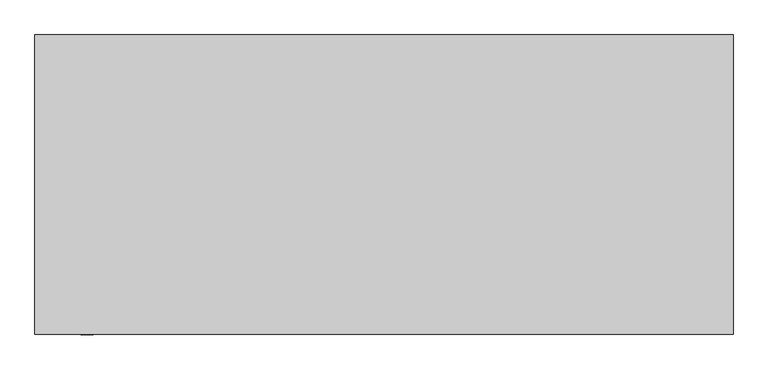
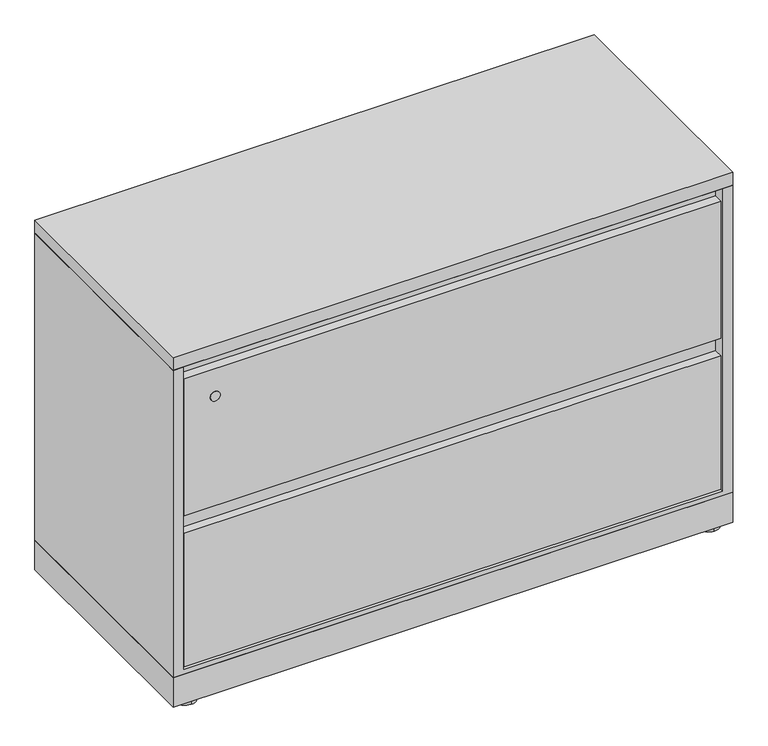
"""IFC4 building model written with IfcOpenShell, lengths in millimetres: furniture geometry, Steelcase - Universal Storage - Lateral File - 2 High - Flush Steel : 18D x 42W."""

from ifc_helpers import new_model, si_unit, point, frame, frame_2d, origin, origin_with_axes, place, context, project, spatial, polyline, circle_curve, trimmed, segment, composite_curve, outline, extrude, faceted_brep, source, transform, mapped, element, save


def furniture_76ad1fc9(model_context):
    return source(origin(), model_context, "Body", "SolidModel", [
        extrude(outline(polyline([(1066.8, 457.2), (1066.8, 0.0), (0.0, 0.0), (0.0, 457.2), (1066.8, 457.2)])), frame((0.0, 0.0, 685.7999516), z_axis=(0.0, 0.0, 1.0), x_axis=(1.0, 0.0, 0.0)), (0.0, 0.0, 1.0), 25.4),
        extrude(outline(polyline([(1066.8, 457.2), (1066.8, 0.0), (0.0, 0.0), (0.0, 457.2), (1066.8, 457.2)])), frame((0.0, 0.0, 6.3500002), z_axis=(0.0, 0.0, 1.0), x_axis=(1.0, 0.0, 0.0)), (0.0, 0.0, 1.0), 59.6899998),
        extrude(outline(composite_curve([segment(trimmed(circle_curve(frame_2d((1032.1290058, 434.8633666)), 20.32), [point((1032.1290058, 414.5433666))], [point((1032.1290058, 455.1833666))], False, "CARTESIAN"), True, "CONTINUOUS"), segment(trimmed(circle_curve(frame_2d((1032.1290058, 434.8633666)), 20.32), [point((1032.1290058, 455.1833666))], [point((1032.1290058, 414.5433666))], False, "CARTESIAN"), True, "CONTINUOUS")], self_intersect=False)), origin_with_axes(), (0.0, 0.0, 1.0), 6.3500002),
        extrude(outline(composite_curve([segment(trimmed(circle_curve(frame_2d((1032.1290058, 20.7491455)), 20.32), [point((1032.1290058, 0.4291455))], [point((1032.1290058, 41.0691455))], False, "CARTESIAN"), True, "CONTINUOUS"), segment(trimmed(circle_curve(frame_2d((1032.1290058, 20.7491455)), 20.32), [point((1032.1290058, 41.0691455))], [point((1032.1290058, 0.4291455))], False, "CARTESIAN"), True, "CONTINUOUS")], self_intersect=False)), origin_with_axes(), (0.0, 0.0, 1.0), 6.3500002),
        extrude(outline(composite_curve([segment(trimmed(circle_curve(frame_2d((34.29, 434.8633666)), 20.32), [point((34.29, 455.1833666))], [point((34.29, 414.5433666))], False, "CARTESIAN"), True, "CONTINUOUS"), segment(trimmed(circle_curve(frame_2d((34.29, 434.8633666)), 20.32), [point((34.29, 414.5433666))], [point((34.29, 455.1833666))], False, "CARTESIAN"), True, "CONTINUOUS")], self_intersect=False)), origin_with_axes(), (0.0, 0.0, 1.0), 6.3500002),
        extrude(outline(composite_curve([segment(trimmed(circle_curve(frame_2d((34.29, 20.7491455)), 20.32), [point((34.29, 41.0691455))], [point((34.29, 0.4291455))], False, "CARTESIAN"), True, "CONTINUOUS"), segment(trimmed(circle_curve(frame_2d((34.29, 20.7491455)), 20.32), [point((34.29, 0.4291455))], [point((34.29, 41.0691455))], False, "CARTESIAN"), True, "CONTINUOUS")], self_intersect=False)), origin_with_axes(), (0.0, 0.0, 1.0), 6.3500002),
        extrude(outline(polyline([(437.7944128, 396.7988176), (437.7944128, 410.7687861), (440.969412, 410.7687861), (440.969412, 371.5257963), (26.822418, 371.5257963), (26.822418, 396.7988176), (437.7944128, 396.7988176)])), frame((22.0472, 0.0, 0.0), z_axis=(1.0, 0.0, 0.0), x_axis=(0.0, 1.0, 0.0)), (0.0, 0.0, 1.0), 1022.7056),
        extrude(outline(polyline([(1.45e-05, 685.7999516), (457.2, 685.7999516), (456.4379879, 685.0379394), (0.7620266, 685.0379394), (1.45e-05, 685.7999516)])), frame((0.0, 0.0, 0.0), z_axis=(1.0, 0.0, 0.0), x_axis=(0.0, 1.0, 0.0)), (0.0, 0.0, 1.0), 1066.8),
        faceted_brep([(1066.8, 0.0, 66.04), (1066.8, 457.2, 66.04), (1066.8, 457.2, 685.0379394), (1066.8, 0.0, 685.0379394), (0.0, 0.0, 685.0379394), (0.0, 457.2, 685.0379394), (0.0, 457.2, 66.04), (0.0, 0.0, 66.04), (1047.75, 0.0, 685.0379394), (1047.75, 0.0, 75.1586), (19.05, 0.0, 75.1586), (19.05, 0.0, 685.0379394), (19.05, 454.0249999, 685.0379394), (1047.75, 454.0249999, 685.0379394), (19.05, 454.0249999, 75.1586), (1047.75, 454.0249999, 75.1586)], [[[0, 1, 2, 3]], [[4, 5, 6, 7]], [[0, 3, 8, 9, 10, 11, 4, 7]], [[2, 1, 6, 5]], [[3, 2, 5, 4, 11, 12, 13, 8]], [[12, 14, 15, 13]], [[14, 12, 11, 10]], [[13, 15, 9, 8]], [[1, 0, 7, 6]], [[10, 9, 15, 14]]]),
        extrude(outline(polyline([(23.6541043, 79.2988025), (1.5178885, 79.2988025), (1.5178885, 348.1577823), (19.3741023, 348.1577823), (19.3741023, 378.7648167), (23.6541043, 378.7648167), (23.6541043, 79.2988025)])), frame((22.0472, 0.0, 0.0), z_axis=(1.0, 0.0, 0.0), x_axis=(0.0, 1.0, 0.0)), (0.0, 0.0, 1.0), 1022.7056),
        extrude(outline(polyline([(23.6541043, 384.1241916), (1.5178885, 384.1241916), (1.5178885, 660.4), (19.3741023, 660.4), (19.3741023, 684.2759167), (23.6541043, 684.2759167), (23.6541043, 384.1241916)])), frame((22.0472, 0.0, 0.0), z_axis=(1.0, 0.0, 0.0), x_axis=(0.0, 1.0, 0.0)), (0.0, 0.0, 1.0), 1022.7056),
        extrude(outline(composite_curve([segment(trimmed(circle_curve(frame_2d((606.1930374, 79.5245518)), 9.2851891), [point((606.1930374, 70.2393627))], [point((606.1930374, 88.8097409))], False, "CARTESIAN"), True, "CONTINUOUS"), segment(trimmed(circle_curve(frame_2d((606.1930374, 79.5245518)), 9.2851891), [point((606.1930374, 88.8097409))], [point((606.1930374, 70.2393627))], False, "CARTESIAN"), True, "CONTINUOUS")], self_intersect=False)), frame((0.0, -1.044398, 0.0), z_axis=(0.0, 1.0, 0.0), x_axis=(0.0, 0.0, 1.0)), (0.0, 0.0, 1.0), 1.044398),
    ])


if __name__ == "__main__":
    model = new_model("IFC4")
    model_context = context("Model", 3, world=origin())
    ifc_project = project(units=[si_unit("LENGTHUNIT", "METRE", prefix="MILLI")], contexts=[model_context])
    site = spatial("IfcSite", under=ifc_project)
    building = spatial("IfcBuilding", under=site)
    placement = place(None, origin())
    furniture_shape = furniture_76ad1fc9(model_context)
    element("IfcFurniture", 1, ObjectType="Steelcase - Universal Storage - Lateral File - 2 High - Flush Steel : 18D x 42W", at=placement, inside=building, context=model_context, shape_type="MappedRepresentation", body=[
        mapped(furniture_shape, transform((0.0, 0.0, 0.0), x_axis=(1.0, 0.0, 0.0), y_axis=(0.0, 1.0, 0.0), z_axis=(0.0, 0.0, 1.0))),
    ])
    save(model, "model.ifc")
